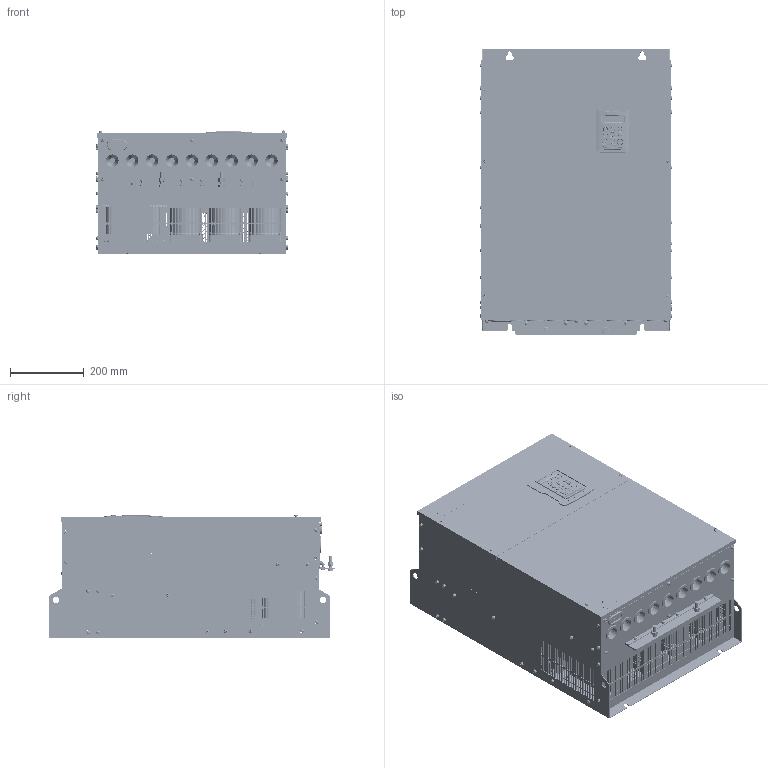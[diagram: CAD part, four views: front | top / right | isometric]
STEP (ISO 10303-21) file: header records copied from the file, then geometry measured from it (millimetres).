
FILE_DESCRIPTION(/* description */ ('','CAx-IF Rec.Pracs.---Representation and Presentation of Product Manufacturing Information (PMI)---4.0---2014-10-13'),/* implementation_level */ '2;1');
FILE_NAME(/* name */ 'C:\Users\943103\Desktop\123456.stp',/* time_stamp */ '2023-09-25T20:38:43+01:00',/* author */ ('943103'),/* organization */ (''),/* preprocessor_version */ 'ST-DEVELOPER v18',/* originating_system */ 'Autodesk Inventor 2020',/* authorisation */ '');
FILE_SCHEMA (('AP242_MANAGED_MODEL_BASED_3D_ENGINEERING_MIM_LF { 1 0 10303 442 1 1 4 }'));
Products named in the file (1): 123456
Bounding box: 522.74 x 778 x 334.07 mm (x, y, z)
Volume: 26197002 mm3; surface area: 14867523.1 mm2
Topology: 1 solids, 1 shells, 36509 faces, 101405 edges, 66595 vertices
Faces by surface type: plane 24436, cylinder 5414, bspline 4758, cone 1212, torus 446, sphere 243
Full cylindrical faces by diameter (mm): 0.74 x8, 0.812 x2, 1 x20, 1.1 x76, 1.2 x72, 1.5 x4, 1.8 x22, 2 x90, 2.18 x14, 2.2 x13, 2.35 x92, 2.5 x4, 2.6 x4, 2.76 x12, 3 x119, 3.187 x2, 3.3 x8, 3.4 x40, 3.434 x1, 3.5 x1, 3.551 x1, 3.68 x60, 3.9 x1, 3.987 x1, 4 x175, 4.4 x60, 4.5 x14, 4.6 x88, 4.8 x3, 5 x199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
Entity records: 1358807 total; most frequent: CARTESIAN_POINT 391665, ORIENTED_EDGE 202740, DIRECTION 182846, EDGE_CURVE 101370, LINE 67554, VECTOR 67554, VERTEX_POINT 66592, AXIS2_PLACEMENT_3D 57646
